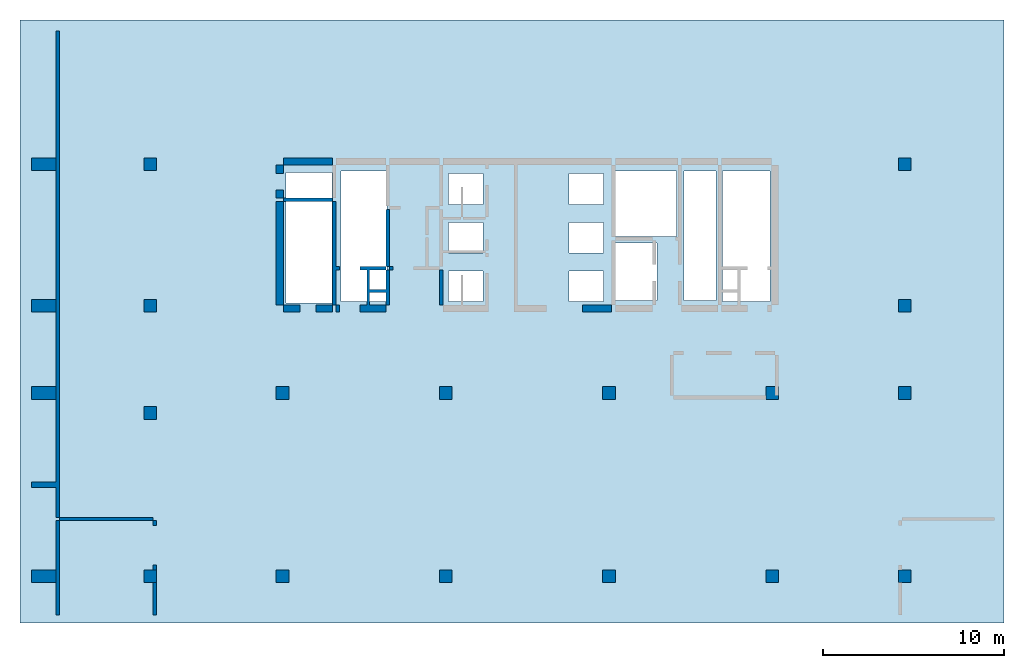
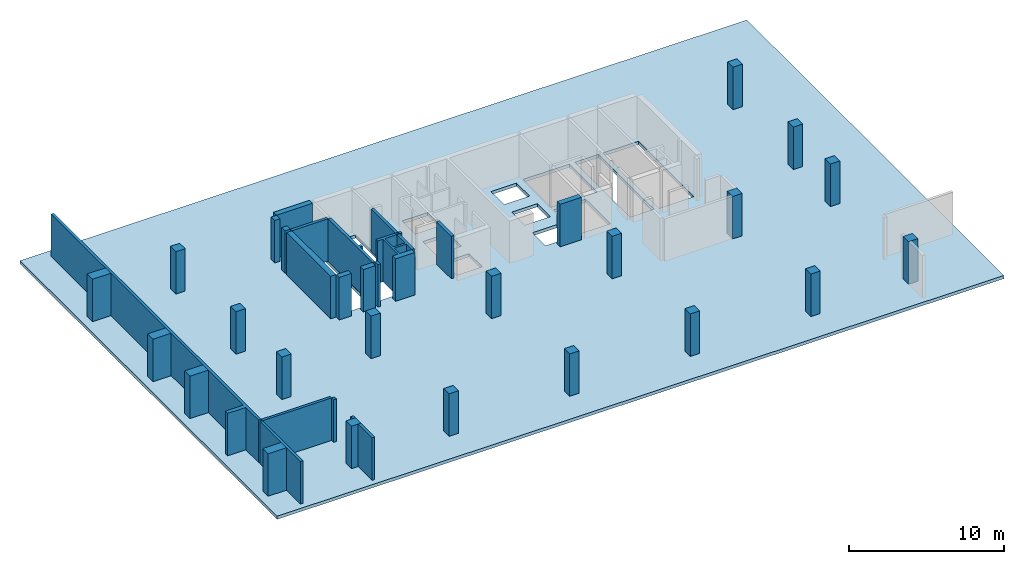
# One storey, part 1 of 2: 20 columns, 20 walls, 1 slab.
"""IFC4 building model written with IfcOpenShell, lengths in millimetres."""

from ifc_helpers import new_model, si_unit, frame, origin, place, context, project, spatial, triangles, element, save


model = new_model("IFC4")

# Units and contexts
model_context = context("Model", 3, precision=0.001, world=origin())
ifc_project = project(units=[si_unit("LENGTHUNIT", "METRE", prefix="MILLI"), si_unit("AREAUNIT", "SQUARE_METRE"), si_unit("VOLUMEUNIT", "CUBIC_METRE")], contexts=[model_context])

# Site, building, storey
site_placement = place(None, origin())
site = spatial("IfcSite", under=ifc_project, at=site_placement, Name="Site", CompositionType="ELEMENT")
building_placement = place(site_placement, origin())
building = spatial("IfcBuilding", under=site, at=building_placement, Name="INNOCEAN", CompositionType="ELEMENT")
storey_placement = place(building_placement, frame((0.0, 0.0, -16200.0)))
storey = spatial("IfcBuildingStorey", under=building, at=storey_placement, Name="B4", CompositionType="ELEMENT", Elevation=-16200.0)

# Columns
column_1_placement = place(storey_placement, origin())
element("IfcColumn", 1, at=column_1_placement, inside=storey, Name="B4_Columns_B4_001", context=model_context, shape_type="Tessellation", body=[
    triangles([(40114.8, 2023.7, 0.0), (40114.8, 2023.7, 3350.0), (40114.8, 2722.3, 0.0), (40114.8, 2722.3, 3350.0), (40813.0, 2023.7, 3350.0), (40813.0, 2023.7, 0.0), (40813.0, 2722.3, 0.0), (40813.0, 2722.3, 3350.0)], [[1, 2, 3], [3, 2, 4], [5, 6, 7], [5, 7, 8], [6, 5, 1], [1, 5, 2], [8, 7, 3], [8, 3, 4], [3, 7, 1], [1, 7, 6], [8, 4, 2], [8, 2, 5]], closed=True),
])
column_2_placement = place(storey_placement, origin())
element("IfcColumn", 2, at=column_2_placement, inside=storey, Name="B4_Columns_B4_002", context=model_context, shape_type="Tessellation", body=[
    triangles([(5843.1, 24721.0, 0.0), (5843.1, 24721.0, 3350.0), (5843.1, 25419.5, 0.0), (5843.1, 25419.5, 3350.0), (6541.2, 24721.0, 3350.0), (6541.2, 24721.0, 0.0), (6541.2, 25419.5, 0.0), (6541.2, 25419.5, 3350.0)], [[1, 2, 3], [3, 2, 4], [5, 6, 7], [5, 7, 8], [6, 5, 1], [1, 5, 2], [8, 7, 3], [8, 3, 4], [1, 3, 6], [3, 7, 6], [4, 2, 5], [8, 4, 5]], closed=True),
])
column_3_placement = place(storey_placement, origin())
element("IfcColumn", 3, at=column_3_placement, inside=storey, Name="B4_Columns_B4_003", context=model_context, shape_type="Tessellation", body=[
    triangles([(5843.1, 16922.4, 0.0), (5843.1, 16922.4, 3350.0), (5843.1, 17620.9, 0.0), (5843.1, 17620.9, 3350.0), (6541.2, 16922.4, 3350.0), (6541.2, 16922.4, 0.0), (6541.2, 17620.9, 0.0), (6541.2, 17620.9, 3350.0)], [[1, 2, 3], [3, 2, 4], [5, 6, 7], [5, 7, 8], [6, 5, 1], [1, 5, 2], [8, 7, 3], [8, 3, 4], [1, 3, 6], [3, 7, 6], [4, 2, 5], [8, 4, 5]], closed=True),
])
column_4_placement = place(storey_placement, origin())
element("IfcColumn", 4, at=column_4_placement, inside=storey, Name="B4_Columns_B4_004", context=model_context, shape_type="Tessellation", body=[
    triangles([(47413.4, 24721.0, 0.0), (47413.4, 24721.0, 3350.0), (47413.4, 25419.5, 0.0), (47413.4, 25419.5, 3350.0), (48111.6, 24721.0, 3350.0), (48111.6, 24721.0, 0.0), (48111.6, 25419.5, 0.0), (48111.6, 25419.5, 3350.0)], [[1, 2, 3], [3, 2, 4], [5, 6, 7], [5, 7, 8], [6, 5, 1], [1, 5, 2], [8, 7, 3], [8, 3, 4], [1, 3, 6], [3, 7, 6], [4, 2, 5], [8, 4, 5]], closed=True),
])
column_5_placement = place(storey_placement, origin())
element("IfcColumn", 5, at=column_5_placement, inside=storey, Name="B4_Columns_B4_005", context=model_context, shape_type="Tessellation", body=[
    triangles([(47413.4, 16922.4, 0.0), (47413.4, 16922.4, 3350.0), (47413.4, 17620.9, 0.0), (47413.4, 17620.9, 3350.0), (48111.6, 16922.4, 3350.0), (48111.6, 16922.4, 0.0), (48111.6, 17620.9, 0.0), (48111.6, 17620.9, 3350.0)], [[1, 2, 3], [3, 2, 4], [5, 6, 7], [5, 7, 8], [6, 5, 1], [1, 5, 2], [8, 7, 3], [8, 3, 4], [1, 3, 6], [3, 7, 6], [4, 2, 5], [8, 4, 5]], closed=True),
])
column_6_placement = place(storey_placement, origin())
element("IfcColumn", 6, at=column_6_placement, inside=storey, Name="B4_Columns_B4_006", context=model_context, shape_type="Tessellation", body=[
    triangles([(13129.0, 2023.7, 0.0), (13129.0, 2023.7, 3350.0), (13129.0, 2722.3, 0.0), (13129.0, 2722.3, 3350.0), (13827.2, 2023.7, 3350.0), (13827.2, 2023.7, 0.0), (13827.2, 2722.3, 0.0), (13827.2, 2722.3, 3350.0)], [[1, 2, 3], [3, 2, 4], [5, 6, 7], [5, 7, 8], [6, 5, 1], [1, 5, 2], [8, 7, 3], [8, 3, 4], [3, 7, 1], [1, 7, 6], [8, 4, 2], [8, 2, 5]], closed=True),
])
column_7_placement = place(storey_placement, origin())
element("IfcColumn", 7, at=column_7_placement, inside=storey, Name="B4_Columns_B4_007", context=model_context, shape_type="Tessellation", body=[
    triangles([(47413.4, 2023.7, 0.0), (47413.4, 2023.7, 3350.0), (47413.4, 2722.3, 0.0), (47413.4, 2722.3, 3350.0), (48111.6, 2023.7, 3350.0), (48111.6, 2023.7, 0.0), (48111.6, 2722.3, 0.0), (48111.6, 2722.3, 3350.0)], [[1, 2, 3], [3, 2, 4], [5, 6, 7], [5, 7, 8], [6, 5, 1], [1, 5, 2], [8, 7, 3], [8, 3, 4], [3, 7, 1], [1, 7, 6], [8, 4, 2], [8, 2, 5]], closed=True),
])
column_8_placement = place(storey_placement, origin())
element("IfcColumn", 8, at=column_8_placement, inside=storey, Name="B4_Columns_B4_008", context=model_context, shape_type="Tessellation", body=[
    triangles([(13129.0, 12121.3, 0.0), (13129.0, 12121.3, 3350.0), (13129.0, 12819.8, 0.0), (13129.0, 12819.8, 3350.0), (13827.2, 12121.3, 3350.0), (13827.2, 12121.3, 0.0), (13827.2, 12819.8, 0.0), (13827.2, 12819.8, 3350.0)], [[1, 2, 3], [3, 2, 4], [5, 6, 7], [5, 7, 8], [6, 5, 1], [1, 5, 2], [8, 7, 3], [8, 3, 4], [3, 7, 1], [1, 7, 6], [8, 4, 2], [8, 2, 5]], closed=True),
])
column_9_placement = place(storey_placement, origin())
element("IfcColumn", 9, at=column_9_placement, inside=storey, Name="B4_Columns_B4_009", context=model_context, shape_type="Tessellation", body=[
    triangles([(5843.1, 11016.3, 0.0), (5843.1, 11016.3, 3350.0), (5843.1, 11727.5, 0.0), (5843.1, 11727.5, 3350.0), (6541.2, 11016.3, 3350.0), (6541.2, 11016.3, 0.0), (6541.2, 11727.5, 0.0), (6541.2, 11727.5, 3350.0)], [[1, 2, 3], [3, 2, 4], [5, 6, 7], [5, 7, 8], [6, 5, 1], [1, 5, 2], [8, 7, 3], [8, 3, 4], [3, 7, 1], [1, 7, 6], [8, 4, 2], [8, 2, 5]], closed=True),
])
column_10_placement = place(storey_placement, origin())
element("IfcColumn", 10, at=column_10_placement, inside=storey, Name="B4_Columns_B4_010", context=model_context, shape_type="Tessellation", body=[
    triangles([(40114.8, 12121.3, 0.0), (40114.8, 12121.3, 3350.0), (40114.8, 12819.8, 0.0), (40114.8, 12819.8, 3350.0), (40813.0, 12121.3, 3350.0), (40813.0, 12121.3, 0.0), (40813.0, 12819.8, 0.0), (40813.0, 12819.8, 3350.0)], [[1, 2, 3], [3, 2, 4], [5, 6, 7], [5, 7, 8], [6, 5, 1], [1, 5, 2], [8, 7, 3], [8, 3, 4], [1, 3, 6], [3, 7, 6], [4, 2, 5], [8, 4, 5]], closed=True),
])
column_11_placement = place(storey_placement, origin())
element("IfcColumn", 11, at=column_11_placement, inside=storey, Name="B4_Columns_B4_011", context=model_context, shape_type="Tessellation", body=[
    triangles([(47413.4, 12121.3, 0.0), (47413.4, 12121.3, 3350.0), (47413.4, 12819.8, 0.0), (47413.4, 12819.8, 3350.0), (48111.6, 12121.3, 3350.0), (48111.6, 12121.3, 0.0), (48111.6, 12819.8, 0.0), (48111.6, 12819.8, 3350.0)], [[1, 2, 3], [3, 2, 4], [5, 6, 7], [5, 7, 8], [6, 5, 1], [1, 5, 2], [8, 7, 3], [8, 3, 4], [1, 3, 6], [3, 7, 6], [4, 2, 5], [8, 4, 5]], closed=True),
])
column_12_placement = place(storey_placement, origin())
element("IfcColumn", 12, at=column_12_placement, inside=storey, Name="B4_Columns_B4_012", context=model_context, shape_type="Tessellation", body=[
    triangles([(5843.1, 2023.7, 0.0), (5843.1, 2023.7, 3350.0), (5843.1, 2722.3, 0.0), (5843.1, 2722.3, 3350.0), (6541.2, 2023.7, 3350.0), (6541.2, 2023.7, 0.0), (6541.2, 2722.3, 0.0), (6541.2, 2722.3, 3350.0)], [[1, 2, 3], [3, 2, 4], [5, 6, 7], [5, 7, 8], [6, 5, 1], [1, 5, 2], [8, 7, 3], [8, 3, 4], [1, 3, 6], [3, 7, 6], [4, 2, 5], [8, 4, 5]], closed=True),
])
column_13_placement = place(storey_placement, origin())
element("IfcColumn", 13, at=column_13_placement, inside=storey, Name="B4_Columns_B4_013", context=model_context, shape_type="Tessellation", body=[
    triangles([(-363.9, 2023.7, 0.0), (-363.9, 2023.7, 3350.0), (-363.9, 2722.3, 0.0), (-363.9, 2722.3, 3350.0), (994.3, 2023.7, 3350.0), (994.3, 2023.7, 0.0), (994.3, 2722.3, 0.0), (994.3, 2722.3, 3350.0)], [[1, 2, 3], [3, 2, 4], [5, 6, 7], [5, 7, 8], [6, 5, 1], [1, 5, 2], [8, 7, 3], [8, 3, 4], [3, 7, 1], [1, 7, 6], [8, 4, 2], [8, 2, 5]], closed=True),
])
column_14_placement = place(storey_placement, origin())
element("IfcColumn", 14, at=column_14_placement, inside=storey, Name="B4_Columns_B4_014", context=model_context, shape_type="Tessellation", body=[
    triangles([(-363.9, 24721.0, 0.0), (-363.9, 24721.0, 3350.0), (-363.9, 25419.5, 0.0), (-363.9, 25419.5, 3350.0), (994.3, 24721.0, 3350.0), (994.3, 24721.0, 0.0), (994.3, 25419.5, 0.0), (994.3, 25419.5, 3350.0)], [[1, 2, 3], [3, 2, 4], [5, 6, 7], [5, 7, 8], [6, 5, 1], [1, 5, 2], [8, 7, 3], [8, 3, 4], [3, 7, 1], [1, 7, 6], [8, 4, 2], [8, 2, 5]], closed=True),
])
column_15_placement = place(storey_placement, origin())
element("IfcColumn", 15, at=column_15_placement, inside=storey, Name="B4_Columns_B4_015", context=model_context, shape_type="Tessellation", body=[
    triangles([(-363.9, 12121.3, 0.0), (-363.9, 12121.3, 3350.0), (-363.9, 12819.8, 0.0), (-363.9, 12819.8, 3350.0), (994.3, 12121.3, 3350.0), (994.3, 12121.3, 0.0), (994.3, 12819.8, 0.0), (994.3, 12819.8, 3350.0)], [[1, 2, 3], [3, 2, 4], [5, 6, 7], [5, 7, 8], [6, 5, 1], [1, 5, 2], [8, 7, 3], [8, 3, 4], [3, 7, 1], [1, 7, 6], [8, 4, 2], [8, 2, 5]], closed=True),
])
column_16_placement = place(storey_placement, origin())
element("IfcColumn", 16, at=column_16_placement, inside=storey, Name="B4_Columns_B4_016", context=model_context, shape_type="Tessellation", body=[
    triangles([(31128.0, 12121.3, 0.0), (31128.0, 12121.3, 3350.0), (31128.0, 12819.8, 0.0), (31128.0, 12819.8, 3350.0), (31826.2, 12121.3, 3350.0), (31826.2, 12121.3, 0.0), (31826.2, 12819.8, 0.0), (31826.2, 12819.8, 3350.0)], [[1, 2, 3], [3, 2, 4], [5, 6, 7], [5, 7, 8], [6, 5, 1], [1, 5, 2], [8, 7, 3], [8, 3, 4], [3, 7, 1], [1, 7, 6], [8, 4, 2], [8, 2, 5]], closed=True),
])
column_17_placement = place(storey_placement, origin())
element("IfcColumn", 17, at=column_17_placement, inside=storey, Name="B4_Columns_B4_017", context=model_context, shape_type="Tessellation", body=[
    triangles([(22128.5, 12121.3, 0.0), (22128.5, 12121.3, 3350.0), (22128.5, 12819.8, 0.0), (22128.5, 12819.8, 3350.0), (22826.7, 12121.3, 3350.0), (22826.7, 12121.3, 0.0), (22826.7, 12819.8, 0.0), (22826.7, 12819.8, 3350.0)], [[1, 2, 3], [3, 2, 4], [5, 6, 7], [5, 7, 8], [6, 5, 1], [1, 5, 2], [8, 7, 3], [8, 3, 4], [3, 7, 1], [1, 7, 6], [8, 4, 2], [8, 2, 5]], closed=True),
])
column_18_placement = place(storey_placement, origin())
element("IfcColumn", 18, at=column_18_placement, inside=storey, Name="B4_Columns_B4_018", context=model_context, shape_type="Tessellation", body=[
    triangles([(31128.0, 2023.7, 0.0), (31128.0, 2023.7, 3350.0), (31128.0, 2722.3, 0.0), (31128.0, 2722.3, 3350.0), (31826.2, 2023.7, 3350.0), (31826.2, 2023.7, 0.0), (31826.2, 2722.3, 0.0), (31826.2, 2722.3, 3350.0)], [[1, 2, 3], [3, 2, 4], [5, 6, 7], [5, 7, 8], [6, 5, 1], [1, 5, 2], [8, 7, 3], [8, 3, 4], [3, 7, 1], [1, 7, 6], [8, 4, 2], [8, 2, 5]], closed=True),
])
column_19_placement = place(storey_placement, origin())
element("IfcColumn", 19, at=column_19_placement, inside=storey, Name="B4_Columns_B4_019", context=model_context, shape_type="Tessellation", body=[
    triangles([(22128.5, 2023.7, 0.0), (22128.5, 2023.7, 3350.0), (22128.5, 2722.3, 0.0), (22128.5, 2722.3, 3350.0), (22826.7, 2023.7, 3350.0), (22826.7, 2023.7, 0.0), (22826.7, 2722.3, 0.0), (22826.7, 2722.3, 3350.0)], [[1, 2, 3], [3, 2, 4], [5, 6, 7], [5, 7, 8], [6, 5, 1], [1, 5, 2], [8, 7, 3], [8, 3, 4], [3, 7, 1], [1, 7, 6], [8, 4, 2], [8, 2, 5]], closed=True),
])
column_20_placement = place(storey_placement, origin())
element("IfcColumn", 20, at=column_20_placement, inside=storey, Name="B4_Columns_B4_020", context=model_context, shape_type="Tessellation", body=[
    triangles([(-363.9, 16922.4, 0.0), (-363.9, 16922.4, 3350.0), (-363.9, 17620.9, 0.0), (-363.9, 17620.9, 3350.0), (994.3, 16922.4, 3350.0), (994.3, 16922.4, 0.0), (994.3, 17620.9, 0.0), (994.3, 17620.9, 3350.0)], [[1, 2, 3], [3, 2, 4], [5, 6, 7], [5, 7, 8], [6, 5, 1], [1, 5, 2], [8, 7, 3], [8, 3, 4], [3, 7, 1], [1, 7, 6], [8, 4, 2], [8, 2, 5]], closed=True),
])

# Slab
slab_placement = place(storey_placement, origin())
element("IfcSlab", 21, at=slab_placement, inside=storey, Name="B4_Slab_B4_001", context=model_context, shape_type="Tessellation", body=[
    triangles([(-987.250996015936, 33023.3766233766, 0.0), (53241.0358565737, 33023.3766233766, 0.0), (-987.250996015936, 33023.3766233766, -250.0), (53241.0358565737, 33023.3766233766, -250.0), (-987.250996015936, -211.688311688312, 0.0), (-987.250996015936, -211.688311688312, -250.0), (53241.0358565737, -211.688311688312, 0.0), (53241.0358565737, -211.688311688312, -250.0), (34130.6772908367, 20745.4545454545, -250.0), (31733.0677290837, 20745.4545454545, 0.0), (31733.0677290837, 20745.4545454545, -250.0), (34130.6772908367, 20745.4545454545, 0.0), (31733.0677290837, 17570.1298701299, 0.0), (31733.0677290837, 17570.1298701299, -250.0), (34130.6772908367, 17570.1298701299, 0.0), (34130.6772908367, 17570.1298701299, -250.0), (31168.9243027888, 19193.0735930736, 0.0), (29264.9402390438, 19193.0735930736, 0.0), (29264.9402390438, 19193.0735930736, -250.0), (31168.9243027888, 19193.0735930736, -250.0), (31168.9243027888, 17499.5670995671, 0.0), (31168.9243027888, 17499.5670995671, -250.0), (29264.9402390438, 17499.5670995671, 0.0), (29264.9402390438, 17499.5670995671, -250.0), (31168.9243027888, 21874.4588744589, 0.0), (29264.9402390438, 21874.4588744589, 0.0), (29264.9402390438, 21874.4588744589, -250.0), (31168.9243027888, 21874.4588744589, -250.0), (29264.9402390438, 20180.9523809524, 0.0), (29264.9402390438, 20180.9523809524, -250.0), (31168.9243027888, 20180.9523809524, 0.0), (31168.9243027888, 20180.9523809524, -250.0), (24540.2390438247, 19193.0735930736, -250.0), (22636.2549800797, 19193.0735930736, 0.0), (22636.2549800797, 19193.0735930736, -250.0), (24540.2390438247, 19193.0735930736, 0.0), (22636.2549800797, 17499.5670995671, 0.0), (22636.2549800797, 17499.5670995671, -250.0), (24540.2390438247, 17499.5670995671, 0.0), (24540.2390438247, 17499.5670995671, -250.0), (24540.2390438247, 21874.4588744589, -250.0), (22636.2549800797, 21874.4588744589, 0.0), (22636.2549800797, 21874.4588744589, -250.0), (24540.2390438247, 21874.4588744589, 0.0), (22636.2549800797, 20180.9523809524, 0.0), (22636.2549800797, 20180.9523809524, -250.0), (24540.2390438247, 20180.9523809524, 0.0), (24540.2390438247, 20180.9523809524, -250.0), (16219.1235059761, 24626.4069264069, 0.0), (13680.4780876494, 24626.4069264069, 0.0), (13680.4780876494, 24626.4069264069, -250.0), (16219.1235059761, 24626.4069264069, -250.0), (13680.4780876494, 17429.0043290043, 0.0), (13680.4780876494, 17429.0043290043, -250.0), (16219.1235059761, 17429.0043290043, 0.0), (16219.1235059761, 17429.0043290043, -250.0), (40336.2549800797, 24696.9696969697, -250.0), (37727.0916334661, 24696.9696969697, 0.0), (37727.0916334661, 24696.9696969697, -250.0), (40336.2549800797, 24696.9696969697, 0.0), (37727.0916334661, 17499.5670995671, 0.0), (37727.0916334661, 17499.5670995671, -250.0), (40336.2549800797, 17499.5670995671, 0.0), (40336.2549800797, 17499.5670995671, -250.0), (37374.5019920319, 24696.9696969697, 0.0), (35611.5537848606, 24696.9696969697, 0.0), (35611.5537848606, 24696.9696969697, -250.0), (37374.5019920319, 24696.9696969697, -250.0), (35611.5537848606, 17570.1298701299, 0.0), (35611.5537848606, 17570.1298701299, -250.0), (37374.5019920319, 17570.1298701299, 0.0), (37374.5019920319, 17570.1298701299, -250.0), (35188.4462151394, 24696.9696969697, 0.0), (31733.0677290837, 24696.9696969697, 0.0), (31733.0677290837, 24696.9696969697, -250.0), (35188.4462151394, 24696.9696969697, -250.0), (31733.0677290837, 21098.2683982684, 0.0), (31733.0677290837, 21098.2683982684, -250.0), (35188.4462151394, 21098.2683982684, 0.0), (35188.4462151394, 21098.2683982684, -250.0), (31168.9243027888, 24555.8441558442, 0.0), (29264.9402390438, 24555.8441558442, 0.0), (29264.9402390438, 24555.8441558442, -250.0), (31168.9243027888, 24555.8441558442, -250.0), (29264.9402390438, 22862.3376623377, 0.0), (29264.9402390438, 22862.3376623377, -250.0), (31168.9243027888, 22862.3376623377, 0.0), (31168.9243027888, 22862.3376623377, -250.0), (19251.3944223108, 24696.9696969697, 0.0), (16712.7490039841, 24696.9696969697, 0.0), (16712.7490039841, 24696.9696969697, -250.0), (19251.3944223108, 24696.9696969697, -250.0), (16712.7490039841, 17499.5670995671, 0.0), (16712.7490039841, 17499.5670995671, -250.0), (19251.3944223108, 17499.5670995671, 0.0), (19251.3944223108, 17499.5670995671, -250.0), (24540.2390438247, 24555.8441558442, -250.0), (22636.2549800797, 24555.8441558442, 0.0), (22636.2549800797, 24555.8441558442, -250.0), (24540.2390438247, 24555.8441558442, 0.0), (22636.2549800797, 22862.3376623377, 0.0), (22636.2549800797, 22862.3376623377, -250.0), (24540.2390438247, 22862.3376623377, 0.0), (24540.2390438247, 22862.3376623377, -250.0)], [[1, 2, 3], [3, 2, 4], [5, 1, 6], [6, 1, 3], [2, 7, 4], [4, 7, 8], [7, 5, 8], [8, 5, 6], [9, 10, 11], [12, 10, 9], [10, 13, 14], [10, 14, 11], [15, 12, 9], [15, 9, 16], [14, 15, 16], [13, 15, 14], [17, 18, 19], [17, 19, 20], [21, 17, 20], [21, 20, 22], [23, 21, 22], [23, 22, 24], [18, 23, 24], [18, 24, 19], [25, 26, 27], [25, 27, 28], [26, 29, 30], [26, 30, 27], [31, 25, 28], [31, 28, 32], [29, 31, 32], [29, 32, 30], [33, 34, 35], [36, 34, 33], [34, 37, 38], [34, 38, 35], [39, 36, 33], [39, 33, 40], [38, 39, 40], [37, 39, 38], [41, 42, 43], [44, 42, 41], [42, 45, 46], [42, 46, 43], [47, 44, 41], [47, 41, 48], [46, 47, 48], [45, 47, 46], [49, 50, 51], [49, 51, 52], [50, 53, 54], [50, 54, 51], [55, 49, 52], [55, 52, 56], [53, 55, 56], [53, 56, 54], [57, 58, 59], [60, 58, 57], [58, 61, 62], [58, 62, 59], [63, 60, 57], [63, 57, 64], [62, 63, 64], [61, 63, 62], [65, 66, 67], [65, 67, 68], [66, 69, 70], [66, 70, 67], [71, 65, 68], [71, 68, 72], [69, 71, 72], [69, 72, 70], [73, 74, 75], [73, 75, 76], [74, 77, 78], [74, 78, 75], [79, 73, 76], [79, 76, 80], [77, 79, 80], [77, 80, 78], [81, 82, 83], [81, 83, 84], [82, 85, 86], [82, 86, 83], [87, 81, 84], [87, 84, 88], [85, 87, 88], [85, 88, 86], [89, 90, 91], [89, 91, 92], [90, 93, 94], [90, 94, 91], [95, 89, 92], [95, 92, 96], [93, 95, 96], [93, 96, 94], [97, 98, 99], [100, 98, 97], [98, 101, 102], [98, 102, 99], [103, 100, 97], [103, 97, 104], [102, 103, 104], [101, 103, 102], [63, 61, 7], [7, 2, 63], [71, 69, 61], [61, 69, 7], [69, 15, 7], [2, 60, 63], [13, 21, 15], [15, 21, 7], [79, 12, 69], [69, 12, 15], [2, 58, 60], [2, 65, 58], [13, 17, 21], [21, 23, 7], [17, 10, 31], [2, 66, 65], [12, 77, 10], [10, 77, 31], [2, 73, 66], [66, 73, 79], [31, 18, 17], [77, 25, 31], [31, 29, 18], [77, 87, 25], [23, 39, 7], [2, 74, 73], [74, 81, 87], [87, 85, 25], [25, 85, 26], [23, 36, 39], [18, 36, 23], [74, 82, 81], [29, 47, 18], [18, 47, 36], [26, 44, 29], [29, 44, 47], [47, 45, 36], [36, 45, 34], [34, 95, 37], [45, 95, 34], [85, 103, 26], [26, 103, 44], [82, 103, 85], [45, 42, 95], [103, 42, 44], [82, 100, 103], [103, 101, 42], [39, 5, 7], [37, 5, 39], [95, 5, 37], [95, 55, 5], [93, 55, 95], [55, 53, 5], [101, 89, 42], [42, 89, 95], [98, 89, 101], [90, 49, 93], [93, 49, 55], [90, 50, 49], [50, 1, 53], [89, 1, 90], [53, 1, 5], [90, 1, 50], [2, 1, 74], [74, 1, 82], [82, 1, 100], [100, 1, 98], [98, 1, 89], [13, 10, 17], [69, 66, 79], [65, 71, 58], [58, 71, 61], [77, 74, 87], [79, 77, 12], [62, 64, 8], [4, 8, 64], [70, 72, 62], [70, 62, 8], [16, 70, 8], [57, 4, 64], [22, 14, 16], [22, 16, 8], [9, 80, 70], [9, 70, 16], [59, 4, 57], [68, 4, 59], [20, 14, 22], [24, 22, 8], [11, 20, 32], [67, 4, 68], [78, 9, 11], [78, 11, 32], [76, 4, 67], [76, 67, 80], [19, 32, 20], [28, 78, 32], [30, 32, 19], [88, 78, 28], [40, 24, 8], [75, 4, 76], [84, 75, 88], [86, 88, 28], [86, 28, 27], [33, 24, 40], [33, 19, 24], [83, 75, 84], [48, 30, 19], [48, 19, 33], [41, 27, 30], [41, 30, 48], [46, 48, 33], [46, 33, 35], [96, 35, 38], [96, 46, 35], [104, 86, 27], [104, 27, 41], [104, 83, 86], [43, 46, 96], [43, 104, 41], [97, 83, 104], [102, 104, 43], [6, 40, 8], [6, 38, 40], [6, 96, 38], [56, 96, 6], [56, 94, 96], [54, 56, 6], [92, 102, 43], [92, 43, 96], [92, 99, 102], [52, 91, 94], [52, 94, 56], [51, 91, 52], [3, 51, 54], [3, 92, 91], [3, 54, 6], [3, 91, 51], [3, 4, 75], [3, 75, 83], [3, 83, 97], [3, 97, 99], [3, 99, 92], [11, 14, 20], [67, 70, 80], [72, 68, 59], [72, 59, 62], [75, 78, 88], [78, 80, 9]], closed=True),
])

# Walls
wall_1_placement = place(storey_placement, origin())
element("IfcWall", 22, at=wall_1_placement, inside=storey, Name="B4_Walls_B4_001", context=model_context, shape_type="Tessellation", body=[
    triangles([(6541.2, 2023.7, 0.0), (6338.1, 2023.7, 0.0), (6338.1, 2023.7, 3350.0), (6541.2, 2023.7, 3350.0), (6541.2, 220.2, 0.0), (6541.2, 220.2, 3350.0), (6338.1, 220.2, 0.0), (6338.1, 220.2, 3350.0)], [[1, 2, 3], [1, 3, 4], [5, 1, 4], [5, 4, 6], [7, 5, 6], [7, 6, 8], [2, 7, 8], [2, 8, 3], [2, 1, 5], [2, 5, 7], [4, 3, 6], [6, 3, 8]], closed=True),
])
wall_2_placement = place(storey_placement, origin())
element("IfcWall", 23, at=wall_2_placement, inside=storey, Name="B4_Walls_B4_002", context=model_context, shape_type="Tessellation", body=[
    triangles([(1184.7, 220.2, 0.0), (1184.7, 5427.7, 0.0), (1184.7, 5427.7, 3350.0), (1184.7, 220.2, 3350.0), (994.3, 220.2, 0.0), (994.3, 220.2, 3350.0), (994.3, 5427.7, 0.0), (994.3, 5427.7, 3350.0)], [[1, 2, 3], [1, 3, 4], [5, 1, 4], [5, 4, 6], [7, 5, 6], [7, 6, 8], [2, 7, 8], [2, 8, 3], [7, 2, 1], [7, 1, 5], [3, 8, 4], [4, 8, 6]], closed=True),
])
wall_3_placement = place(storey_placement, origin())
element("IfcWall", 24, at=wall_3_placement, inside=storey, Name="B4_Walls_B4_003", context=model_context, shape_type="Tessellation", body=[
    triangles([(6541.2, 2722.3, 0.0), (6541.2, 2976.3, 0.0), (6541.2, 2976.3, 3350.0), (6541.2, 2722.3, 3350.0), (6338.1, 2722.3, 0.0), (6338.1, 2722.3, 3350.0), (6338.1, 2976.3, 0.0), (6338.1, 2976.3, 3350.0)], [[1, 2, 3], [1, 3, 4], [5, 1, 4], [5, 4, 6], [7, 5, 6], [7, 6, 8], [2, 7, 8], [2, 8, 3], [2, 1, 5], [7, 2, 5], [4, 3, 6], [3, 8, 6]], closed=True),
])
wall_4_placement = place(storey_placement, origin())
element("IfcWall", 25, at=wall_4_placement, inside=storey, Name="B4_Walls_B4_004", context=model_context, shape_type="Tessellation", body=[
    triangles([(6338.1, 5173.7, 0.0), (6541.2, 5173.7, 0.0), (6541.2, 5173.7, 3350.0), (6338.1, 5173.7, 3350.0), (6338.1, 5427.7, 0.0), (6338.1, 5427.7, 3350.0), (6541.2, 5427.7, 0.0), (6541.2, 5427.7, 3350.0)], [[1, 2, 3], [1, 3, 4], [5, 1, 4], [5, 4, 6], [7, 5, 6], [7, 6, 8], [2, 7, 8], [2, 8, 3], [7, 2, 1], [5, 7, 1], [3, 8, 4], [8, 6, 4]], closed=True),
])
wall_5_placement = place(storey_placement, origin())
element("IfcWall", 26, at=wall_5_placement, inside=storey, Name="B4_Walls_B4_005", context=model_context, shape_type="Tessellation", body=[
    triangles([(6338.1, 5427.7, 0.0), (6338.1, 5618.2, 0.0), (6338.1, 5618.2, 3350.0), (6338.1, 5427.7, 3350.0), (1184.7, 5427.7, 0.0), (1184.7, 5427.7, 3350.0), (1184.7, 5618.2, 0.0), (1184.7, 5618.2, 3350.0)], [[1, 2, 3], [1, 3, 4], [5, 1, 4], [5, 4, 6], [7, 5, 6], [7, 6, 8], [2, 7, 8], [2, 8, 3], [7, 2, 1], [7, 1, 5], [3, 8, 4], [4, 8, 6]], closed=True),
])
wall_6_placement = place(storey_placement, origin())
element("IfcWall", 27, at=wall_6_placement, inside=storey, Name="B4_Walls_B4_006", context=model_context, shape_type="Tessellation", body=[
    triangles([(-365.0, 7575.0, 0.0), (-365.0, 7270.0, 0.0), (-365.0, 7270.0, 3350.0), (-365.0, 7575.0, 3350.0), (994.3, 7575.0, 0.0), (994.3, 7575.0, 3350.0), (994.3, 32417.9, 0.0), (994.3, 32417.9, 3350.0), (1184.7, 32417.9, 0.0), (1184.7, 32417.9, 3350.0), (1184.7, 5618.2, 0.0), (1184.7, 5618.2, 3350.0), (994.3, 5618.2, 0.0), (994.3, 5618.2, 3350.0), (994.3, 7269.4, 0.0), (994.3, 7269.4, 3350.0), (-363.9, 7269.4, 0.0), (-363.9, 7269.4, 3350.0), (-363.9, 7270.0, 0.0), (-363.9, 7270.0, 3350.0)], [[1, 2, 3], [1, 3, 4], [5, 1, 4], [5, 4, 6], [7, 5, 6], [7, 6, 8], [9, 7, 8], [9, 8, 10], [11, 9, 10], [11, 10, 12], [13, 11, 12], [13, 12, 14], [15, 13, 14], [15, 14, 16], [17, 15, 16], [17, 16, 18], [19, 17, 18], [19, 18, 20], [2, 19, 20], [2, 20, 3], [15, 11, 13], [5, 11, 15], [19, 15, 17], [19, 5, 15], [1, 19, 2], [1, 5, 19], [7, 9, 5], [9, 11, 5], [12, 16, 14], [12, 6, 16], [16, 20, 18], [6, 20, 16], [20, 4, 3], [6, 4, 20], [10, 8, 6], [12, 10, 6]], closed=True),
])
wall_7_placement = place(storey_placement, origin())
element("IfcWall", 28, at=wall_7_placement, inside=storey, Name="B4_Walls_B4_007", context=model_context, shape_type="Tessellation", body=[
    triangles([(14436.4, 16922.4, 0.0), (14436.4, 17316.1, 0.0), (14436.4, 17316.1, 3350.0), (14436.4, 16922.4, 3350.0), (13535.2, 16922.4, 0.0), (13535.2, 16922.4, 3350.0), (13535.2, 17316.1, 0.0), (13535.2, 17316.1, 3350.0)], [[1, 2, 3], [1, 3, 4], [5, 1, 4], [5, 4, 6], [7, 5, 6], [7, 6, 8], [2, 7, 8], [2, 8, 3], [7, 2, 1], [7, 1, 5], [3, 8, 4], [4, 8, 6]], closed=True),
])
wall_8_placement = place(storey_placement, origin())
element("IfcWall", 29, at=wall_8_placement, inside=storey, Name="B4_Walls_B4_008", context=model_context, shape_type="Tessellation", body=[
    triangles([(16226.2, 16922.4, 0.0), (16226.2, 17316.1, 0.0), (16226.2, 17316.1, 3350.0), (16226.2, 16922.4, 3350.0), (15337.6, 16922.4, 0.0), (15337.6, 16922.4, 3350.0), (15337.6, 17316.1, 0.0), (15337.6, 17316.1, 3350.0)], [[1, 2, 3], [1, 3, 4], [5, 1, 4], [5, 4, 6], [7, 5, 6], [7, 6, 8], [2, 7, 8], [2, 8, 3], [7, 2, 1], [7, 1, 5], [3, 8, 4], [4, 8, 6]], closed=True),
])
wall_9_placement = place(storey_placement, origin())
element("IfcWall", 30, at=wall_9_placement, inside=storey, Name="B4_Walls_B4_009", context=model_context, shape_type="Tessellation", body=[
    triangles([(16632.4, 16922.4, 0.0), (16632.4, 17316.1, 0.0), (16632.4, 17316.1, 3350.0), (16632.4, 16922.4, 3350.0), (16429.3, 16922.4, 0.0), (16429.3, 16922.4, 3350.0), (16429.3, 17316.1, 0.0), (16429.3, 17316.1, 3350.0)], [[1, 2, 3], [1, 3, 4], [5, 1, 4], [5, 4, 6], [7, 5, 6], [7, 6, 8], [2, 7, 8], [2, 8, 3], [7, 2, 1], [7, 1, 5], [3, 8, 4], [4, 8, 6]], closed=True),
])
wall_10_placement = place(storey_placement, origin())
element("IfcWall", 31, at=wall_10_placement, inside=storey, Name="B4_Walls_B4_010", context=model_context, shape_type="Tessellation", body=[
    triangles([(18130.2, 19246.7, 0.0), (18130.2, 19245.0, 0.0), (18130.2, 19245.0, 3350.0), (18130.2, 19246.7, 3350.0), (18130.0, 19245.0, 0.0), (18130.0, 19245.0, 3350.0), (18130.0, 17316.1, 0.0), (18130.0, 17316.1, 3350.0), (17749.4, 17316.1, 0.0), (17749.4, 17316.1, 3350.0), (17749.4, 16922.4, 0.0), (17749.4, 16922.4, 3350.0), (19183.7, 16922.4, 0.0), (19183.7, 16922.4, 3350.0), (19183.7, 17316.1, 0.0), (19183.7, 17316.1, 3350.0), (19374.1, 17316.1, 0.0), (19374.1, 17316.1, 3350.0), (19374.1, 19246.7, 0.0), (19374.1, 19246.7, 3350.0), (19183.7, 19246.7, 0.0), (19183.7, 19246.7, 3350.0), (19183.7, 19449.9, 0.0), (19183.7, 19449.9, 3350.0), (17749.4, 19449.9, 0.0), (17749.4, 19449.9, 3350.0), (17749.4, 19246.7, 0.0), (17749.4, 19246.7, 3350.0), (18282.5, 17316.1, 0.0), (18282.5, 17316.1, 3350.0), (18282.5, 18014.7, 0.0), (18282.5, 18014.7, 3350.0), (19183.7, 18014.7, 0.0), (19183.7, 18014.7, 3350.0), (19183.7, 18167.1, 0.0), (19183.7, 18167.1, 3350.0), (18282.5, 18167.1, 0.0), (18282.5, 18167.1, 3350.0), (18282.5, 19246.7, 0.0), (18282.5, 19246.7, 3350.0)], [[1, 2, 3], [1, 3, 4], [2, 5, 6], [2, 6, 3], [5, 7, 8], [5, 8, 6], [7, 9, 10], [7, 10, 8], [9, 11, 12], [9, 12, 10], [11, 13, 14], [11, 14, 12], [13, 15, 16], [13, 16, 14], [15, 17, 18], [15, 18, 16], [19, 20, 18], [17, 19, 18], [19, 21, 22], [19, 22, 20], [21, 23, 24], [21, 24, 22], [23, 25, 26], [23, 26, 24], [25, 27, 28], [25, 28, 26], [27, 1, 4], [27, 4, 28], [15, 29, 30], [15, 30, 16], [29, 31, 32], [29, 32, 30], [31, 33, 34], [31, 34, 32], [33, 15, 16], [33, 16, 34], [21, 35, 36], [21, 36, 22], [35, 37, 38], [35, 38, 36], [37, 39, 40], [37, 40, 38], [39, 21, 22], [39, 22, 40], [33, 17, 15], [35, 17, 33], [29, 15, 13], [11, 29, 13], [7, 29, 11], [9, 7, 11], [31, 35, 33], [31, 29, 7], [19, 17, 35], [37, 35, 31], [21, 19, 35], [39, 23, 21], [2, 39, 37], [5, 2, 37], [1, 39, 2], [25, 1, 27], [25, 23, 39], [25, 39, 1], [7, 5, 37], [7, 37, 31], [18, 34, 16], [18, 36, 34], [16, 30, 14], [30, 12, 14], [30, 8, 12], [8, 10, 12], [36, 32, 34], [30, 32, 8], [18, 20, 36], [36, 38, 32], [20, 22, 36], [24, 40, 22], [40, 3, 38], [3, 6, 38], [40, 4, 3], [4, 26, 28], [24, 26, 40], [40, 26, 4], [6, 8, 38], [38, 8, 32]], closed=True),
])
wall_11_placement = place(storey_placement, origin())
element("IfcWall", 32, at=wall_11_placement, inside=storey, Name="B4_Walls_B4_011", context=model_context, shape_type="Tessellation", body=[
    triangles([(16632.4, 19449.9, 0.0), (16429.3, 19449.9, 0.0), (16429.3, 19449.9, 3350.0), (16632.4, 19449.9, 3350.0), (16632.4, 19246.7, 0.0), (16632.4, 19246.7, 3350.0), (16429.3, 19246.7, 0.0), (16429.3, 19246.7, 3350.0), (16429.3, 17316.1, 3350.0), (16429.3, 17316.1, 0.0), (16226.2, 17316.1, 0.0), (16226.2, 17316.1, 3350.0), (16226.2, 19246.7, 3350.0), (16226.2, 19246.7, 0.0), (16226.2, 19449.9, 0.0), (16226.2, 19449.9, 3350.0), (16226.2, 23019.0, 0.0), (16226.2, 23019.0, 3350.0), (16429.3, 23019.0, 0.0), (16429.3, 23019.0, 3350.0)], [[1, 2, 3], [1, 3, 4], [5, 1, 4], [5, 4, 6], [7, 5, 6], [7, 6, 8], [7, 8, 9], [10, 7, 9], [11, 10, 9], [11, 9, 12], [11, 12, 13], [14, 11, 13], [15, 14, 13], [15, 13, 16], [17, 15, 16], [17, 16, 18], [19, 17, 18], [19, 18, 20], [2, 19, 20], [2, 20, 3], [14, 7, 10], [14, 10, 11], [2, 1, 5], [2, 5, 7], [15, 2, 7], [15, 7, 14], [19, 2, 15], [17, 19, 15], [8, 13, 9], [9, 13, 12], [4, 3, 6], [6, 3, 8], [3, 16, 8], [8, 16, 13], [3, 20, 16], [20, 18, 16]], closed=True),
])
wall_12_placement = place(storey_placement, origin())
element("IfcWall", 33, at=wall_12_placement, inside=storey, Name="B4_Walls_B4_012", context=model_context, shape_type="Tessellation", body=[
    triangles([(13129.0, 23019.0, 0.0), (13129.0, 17316.1, 0.0), (13129.0, 17316.1, 3350.0), (13129.0, 23019.0, 3350.0), (13535.2, 23019.0, 0.0), (13535.2, 23019.0, 3350.0), (13535.2, 17316.1, 0.0), (13535.2, 17316.1, 3350.0)], [[1, 2, 3], [1, 3, 4], [5, 1, 4], [5, 4, 6], [7, 5, 6], [7, 6, 8], [2, 7, 8], [2, 8, 3], [1, 5, 7], [1, 7, 2], [6, 4, 8], [8, 4, 3]], closed=True),
])
wall_13_placement = place(storey_placement, origin())
element("IfcWall", 34, at=wall_13_placement, inside=storey, Name="B4_Walls_B4_013", context=model_context, shape_type="Tessellation", body=[
    triangles([(16226.2, 23019.0, 0.0), (16226.2, 23222.2, 0.0), (16226.2, 23222.2, 3350.0), (16226.2, 23019.0, 3350.0), (13535.2, 23019.0, 0.0), (13535.2, 23019.0, 3350.0), (13535.2, 23222.2, 0.0), (13535.2, 23222.2, 3350.0)], [[1, 2, 3], [1, 3, 4], [5, 1, 4], [5, 4, 6], [7, 5, 6], [7, 6, 8], [2, 7, 8], [2, 8, 3], [7, 2, 1], [7, 1, 5], [3, 8, 4], [4, 8, 6]], closed=True),
])
wall_14_placement = place(storey_placement, origin())
element("IfcWall", 35, at=wall_14_placement, inside=storey, Name="B4_Walls_B4_014", context=model_context, shape_type="Tessellation", body=[
    triangles([(13535.2, 23222.2, 0.0), (13535.2, 23666.8, 0.0), (13535.2, 23666.8, 3350.0), (13535.2, 23222.2, 3350.0), (13129.0, 23222.2, 0.0), (13129.0, 23222.2, 3350.0), (13129.0, 23666.8, 0.0), (13129.0, 23666.8, 3350.0)], [[1, 2, 3], [1, 3, 4], [5, 1, 4], [5, 4, 6], [7, 5, 6], [7, 6, 8], [2, 7, 8], [2, 8, 3], [7, 2, 1], [7, 1, 5], [3, 8, 4], [4, 8, 6]], closed=True),
])
wall_15_placement = place(storey_placement, origin())
element("IfcWall", 36, at=wall_15_placement, inside=storey, Name="B4_Walls_B4_016", context=model_context, shape_type="Tessellation", body=[
    triangles([(13535.2, 25025.8, 0.0), (13129.0, 25025.8, 0.0), (13129.0, 25025.8, 3350.0), (13535.2, 25025.8, 3350.0), (13535.2, 24568.5, 0.0), (13535.2, 24568.5, 3350.0), (13129.0, 24568.5, 0.0), (13129.0, 24568.5, 3350.0)], [[1, 2, 3], [1, 3, 4], [5, 1, 4], [5, 4, 6], [7, 5, 6], [7, 6, 8], [2, 7, 8], [2, 8, 3], [2, 1, 5], [2, 5, 7], [4, 3, 6], [6, 3, 8]], closed=True),
])
wall_16_placement = place(storey_placement, origin())
element("IfcWall", 37, at=wall_16_placement, inside=storey, Name="B4_Walls_B4_017", context=model_context, shape_type="Tessellation", body=[
    triangles([(13535.2, 25025.8, 0.0), (16226.2, 25025.8, 0.0), (16226.2, 25025.8, 3350.0), (13535.2, 25025.8, 3350.0), (13535.2, 25419.5, 0.0), (13535.2, 25419.5, 3350.0), (16226.2, 25419.5, 0.0), (16226.2, 25419.5, 3350.0)], [[1, 2, 3], [1, 3, 4], [5, 1, 4], [5, 4, 6], [7, 5, 6], [7, 6, 8], [2, 7, 8], [2, 8, 3], [1, 7, 2], [5, 7, 1], [8, 4, 3], [8, 6, 4]], closed=True),
])
wall_17_placement = place(storey_placement, origin())
element("IfcWall", 38, at=wall_17_placement, inside=storey, Name="B4_Walls_B4_020", context=model_context, shape_type="Tessellation", body=[
    triangles([(22331.6, 19246.7, 0.0), (22331.6, 19246.7, 3350.0), (22331.6, 17316.1, 3350.0), (22331.6, 17316.1, 0.0), (22128.5, 17316.1, 0.0), (22128.5, 17316.1, 3350.0), (22128.5, 19246.7, 3350.0), (22128.5, 19246.7, 0.0)], [[1, 2, 3], [4, 1, 3], [5, 4, 3], [5, 3, 6], [5, 6, 7], [8, 5, 7], [1, 8, 7], [1, 7, 2], [8, 1, 4], [8, 4, 5], [2, 7, 3], [3, 7, 6]], closed=True),
])
wall_18_placement = place(storey_placement, origin())
element("IfcWall", 39, at=wall_18_placement, inside=storey, Name="B4_Walls_B4_021", context=model_context, shape_type="Tessellation", body=[
    triangles([(19577.2, 19449.9, 0.0), (19374.1, 19449.9, 0.0), (19374.1, 19449.9, 3350.0), (19577.2, 19449.9, 3350.0), (19577.2, 19246.7, 0.0), (19577.2, 19246.7, 3350.0), (19374.1, 19246.7, 0.0), (19374.1, 19246.7, 3350.0)], [[1, 2, 3], [1, 3, 4], [5, 1, 4], [5, 4, 6], [7, 5, 6], [7, 6, 8], [2, 7, 8], [2, 8, 3], [2, 1, 5], [2, 5, 7], [4, 3, 6], [6, 3, 8]], closed=True),
])
wall_19_placement = place(storey_placement, origin())
element("IfcWall", 40, at=wall_19_placement, inside=storey, Name="B4_Walls_B4_026", context=model_context, shape_type="Tessellation", body=[
    triangles([(19374.1, 19449.9, 0.0), (19374.1, 22574.4, 0.0), (19374.1, 22574.4, 3350.0), (19374.1, 19449.9, 3350.0), (19183.7, 19449.9, 0.0), (19183.7, 19449.9, 3350.0), (19183.7, 22574.4, 0.0), (19183.7, 22574.4, 3350.0)], [[1, 2, 3], [1, 3, 4], [5, 1, 4], [5, 4, 6], [7, 5, 6], [7, 6, 8], [2, 7, 8], [2, 8, 3], [2, 1, 5], [7, 2, 5], [4, 3, 6], [3, 8, 6]], closed=True),
])
wall_20_placement = place(storey_placement, origin())
element("IfcWall", 41, at=wall_20_placement, inside=storey, Name="B4_Walls_B4_038", context=model_context, shape_type="Tessellation", body=[
    triangles([(31623.1, 16922.4, 0.0), (31623.1, 17316.1, 0.0), (31623.1, 17316.1, 3350.0), (31623.1, 16922.4, 3350.0), (30023.7, 16922.4, 0.0), (30023.7, 16922.4, 3350.0), (30023.7, 17316.1, 0.0), (30023.7, 17316.1, 3350.0)], [[1, 2, 3], [1, 3, 4], [5, 1, 4], [5, 4, 6], [7, 5, 6], [7, 6, 8], [2, 7, 8], [2, 8, 3], [7, 2, 1], [7, 1, 5], [3, 8, 4], [4, 8, 6]], closed=True),
])

save(model, "model.ifc")
